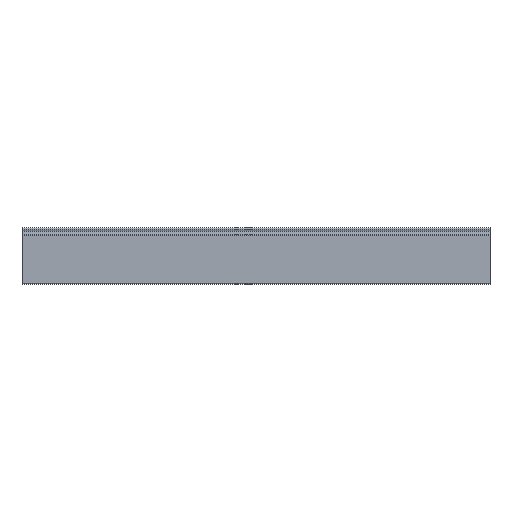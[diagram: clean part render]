
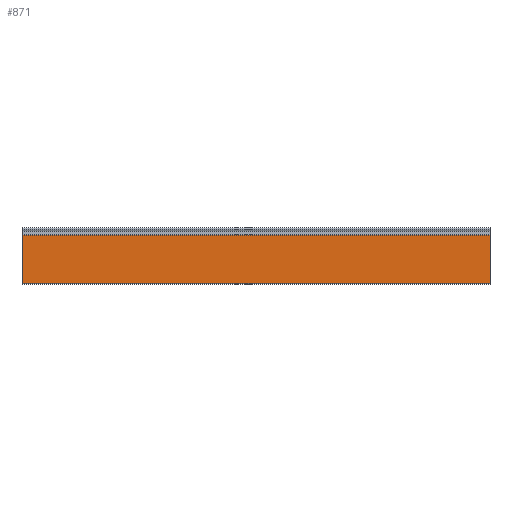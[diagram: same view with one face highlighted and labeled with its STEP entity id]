
A CAD part, top view. The second image highlights one B-rep face of the part: STEP entity #871.
In plain terms, the highlighted planar face has unit normal (0, 0, 1).
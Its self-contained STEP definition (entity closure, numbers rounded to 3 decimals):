
#148 = EDGE_CURVE ( 'NONE', #1191, #1227, #1040, .T. ) ;
#160 = EDGE_CURVE ( 'NONE', #1209, #1191, #1065, .T. ) ;
#165 = EDGE_CURVE ( 'NONE', #1208, #1227, #1075, .T. ) ;
#259 = AXIS2_PLACEMENT_3D ( 'NONE', #594, #597, #598 ) ;
#298 = FACE_OUTER_BOUND ( 'NONE', #788, .T. ) ;
#329 = LINE ( 'NONE', #650, #334 ) ;
#334 = VECTOR ( 'NONE', #651, 1000. ) ;
#376 = CARTESIAN_POINT ( 'NONE',  ( -533., -12.164, 4.05 ) ) ;
#379 = DIRECTION ( 'NONE',  ( 0., -1., 0. ) ) ;
#405 = CARTESIAN_POINT ( 'NONE',  ( 533., -12.164, 4.05 ) ) ;
#406 = DIRECTION ( 'NONE',  ( -1., 0., 0. ) ) ;
#415 = CARTESIAN_POINT ( 'NONE',  ( 533., -121.663, 4.05 ) ) ;
#416 = DIRECTION ( 'NONE',  ( -1., 0., 0. ) ) ;
#594 = CARTESIAN_POINT ( 'NONE',  ( 533., -12.164, 4.05 ) ) ;
#595 = PLANE ( 'NONE',  #259 ) ;
#597 = DIRECTION ( 'NONE',  ( 0., 0., -1. ) ) ;
#598 = DIRECTION ( 'NONE',  ( 0., 1., 0. ) ) ;
#650 = CARTESIAN_POINT ( 'NONE',  ( 533., -12.164, 4.05 ) ) ;
#651 = DIRECTION ( 'NONE',  ( 0., -1., 0. ) ) ;
#670 = CARTESIAN_POINT ( 'NONE',  ( -533., -12.164, 4.05 ) ) ;
#687 = CARTESIAN_POINT ( 'NONE',  ( 533., -121.663, 4.05 ) ) ;
#688 = CARTESIAN_POINT ( 'NONE',  ( 533., -12.164, 4.05 ) ) ;
#706 = CARTESIAN_POINT ( 'NONE',  ( -533., -121.663, 4.05 ) ) ;
#788 = EDGE_LOOP ( 'NONE', ( #955, #954, #953, #952 ) ) ;
#871 = ADVANCED_FACE ( 'NONE', ( #298 ), #595, .F. ) ;
#894 = EDGE_CURVE ( 'NONE', #1209, #1208, #329, .T. ) ;
#952 = ORIENTED_EDGE ( 'NONE', *, *, #160, .T. ) ;
#953 = ORIENTED_EDGE ( 'NONE', *, *, #894, .F. ) ;
#954 = ORIENTED_EDGE ( 'NONE', *, *, #165, .F. ) ;
#955 = ORIENTED_EDGE ( 'NONE', *, *, #148, .T. ) ;
#1040 = LINE ( 'NONE', #376, #1043 ) ;
#1043 = VECTOR ( 'NONE', #379, 1000. ) ;
#1065 = LINE ( 'NONE', #405, #1066 ) ;
#1066 = VECTOR ( 'NONE', #406, 1000. ) ;
#1075 = LINE ( 'NONE', #415, #1076 ) ;
#1076 = VECTOR ( 'NONE', #416, 1000. ) ;
#1191 = VERTEX_POINT ( 'NONE', #670 ) ;
#1208 = VERTEX_POINT ( 'NONE', #687 ) ;
#1209 = VERTEX_POINT ( 'NONE', #688 ) ;
#1227 = VERTEX_POINT ( 'NONE', #706 ) ;
